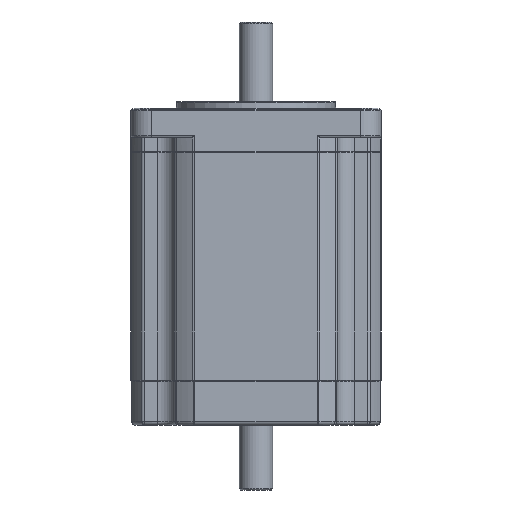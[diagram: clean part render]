
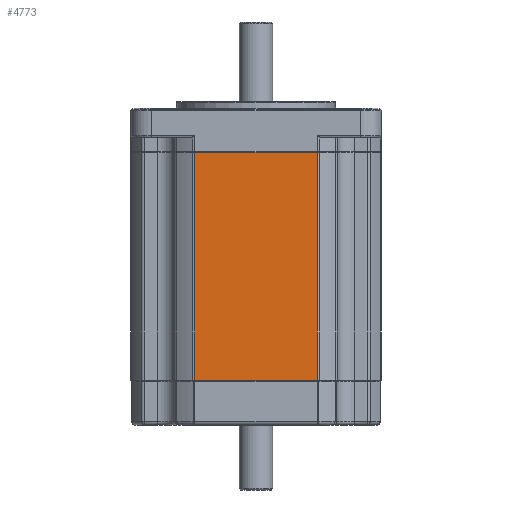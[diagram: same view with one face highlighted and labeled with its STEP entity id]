
A CAD part, front view. The second image highlights one B-rep face of the part: STEP entity #4773.
In plain terms, the highlighted planar face has unit normal (0, -1, 0).
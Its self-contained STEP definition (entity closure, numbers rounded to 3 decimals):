
#598 = VERTEX_POINT ( 'NONE', #13632 ) ;
#1611 = CARTESIAN_POINT ( 'NONE',  ( 14.671, -30., 54.8 ) ) ;
#2331 = EDGE_CURVE ( 'NONE', #10943, #598, #11749, .T. ) ;
#2475 = EDGE_CURVE ( 'NONE', #11473, #6590, #9463, .T. ) ;
#2519 = ORIENTED_EDGE ( 'NONE', *, *, #2331, .T. ) ;
#2707 = EDGE_CURVE ( 'NONE', #10943, #6590, #7150, .T. ) ;
#2930 = EDGE_CURVE ( 'NONE', #598, #11473, #3242, .T. ) ;
#3019 = DIRECTION ( 'NONE',  ( -1., 0., 0. ) ) ;
#3020 = ORIENTED_EDGE ( 'NONE', *, *, #2930, .T. ) ;
#3242 = LINE ( 'NONE', #9912, #12708 ) ;
#4073 = DIRECTION ( 'NONE',  ( 0., 1., 0. ) ) ;
#4271 = CARTESIAN_POINT ( 'NONE',  ( -14.671, -30., 54.8 ) ) ;
#4664 = ORIENTED_EDGE ( 'NONE', *, *, #2707, .F. ) ;
#4773 = ADVANCED_FACE ( 'NONE', ( #12503 ), #13900, .F. ) ;
#5957 = CARTESIAN_POINT ( 'NONE',  ( -14.671, -30., 0.2 ) ) ;
#6590 = VERTEX_POINT ( 'NONE', #8407 ) ;
#7150 = LINE ( 'NONE', #14438, #12516 ) ;
#7318 = CARTESIAN_POINT ( 'NONE',  ( -14.671, -30., 0.2 ) ) ;
#8407 = CARTESIAN_POINT ( 'NONE',  ( 14.671, -30., 0.2 ) ) ;
#9070 = VECTOR ( 'NONE', #10009, 1000. ) ;
#9463 = LINE ( 'NONE', #7318, #9070 ) ;
#9912 = CARTESIAN_POINT ( 'NONE',  ( -14.671, -30., 55. ) ) ;
#10009 = DIRECTION ( 'NONE',  ( 1., 0., 0. ) ) ;
#10943 = VERTEX_POINT ( 'NONE', #1611 ) ;
#11168 = AXIS2_PLACEMENT_3D ( 'NONE', #11450, #4073, #12722 ) ;
#11450 = CARTESIAN_POINT ( 'NONE',  ( -14.671, -30., 55. ) ) ;
#11473 = VERTEX_POINT ( 'NONE', #5957 ) ;
#11749 = LINE ( 'NONE', #4271, #14284 ) ;
#12503 = FACE_OUTER_BOUND ( 'NONE', #14086, .T. ) ;
#12516 = VECTOR ( 'NONE', #14808, 1000. ) ;
#12708 = VECTOR ( 'NONE', #16069, 1000. ) ;
#12722 = DIRECTION ( 'NONE',  ( 0., 0., 1. ) ) ;
#12757 = ORIENTED_EDGE ( 'NONE', *, *, #2475, .T. ) ;
#13632 = CARTESIAN_POINT ( 'NONE',  ( -14.671, -30., 54.8 ) ) ;
#13900 = PLANE ( 'NONE',  #11168 ) ;
#14086 = EDGE_LOOP ( 'NONE', ( #3020, #12757, #4664, #2519 ) ) ;
#14284 = VECTOR ( 'NONE', #3019, 1000. ) ;
#14438 = CARTESIAN_POINT ( 'NONE',  ( 14.671, -30., 55. ) ) ;
#14808 = DIRECTION ( 'NONE',  ( 0., 0., -1. ) ) ;
#16069 = DIRECTION ( 'NONE',  ( 0., 0., -1. ) ) ;
